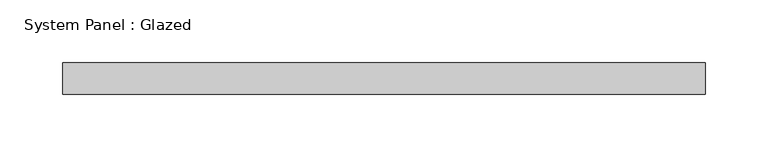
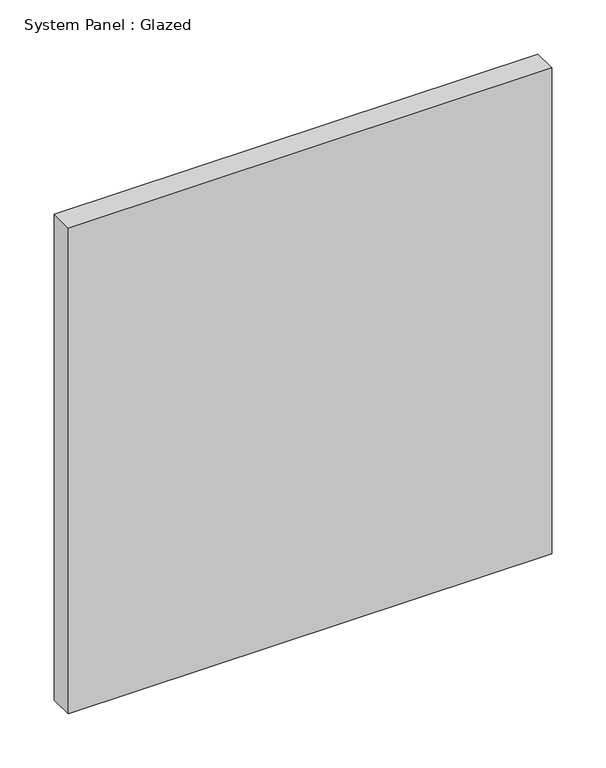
"""IFC4 building model written with IfcOpenShell, lengths in millimetres: plate geometry, System Panel : Glazed."""

from ifc_helpers import new_model, si_unit, origin, origin_with_axes, place, context, project, spatial, polyline, outline, extrude, source, transform, mapped, element, save


def system_panel_glazed_f9269b4e(model_context):
    return source(origin(), model_context, "Body", "SweptSolid", [
        extrude(outline(polyline([(257.175, 19.05), (-257.175, 19.05), (-257.175, 44.45), (257.175, 44.45), (257.175, 19.05)])), origin_with_axes(), (0.0, 0.0, 1.0), 546.1),
    ])


if __name__ == "__main__":
    model = new_model("IFC4")
    model_context = context("Model", 3, world=origin())
    ifc_project = project(units=[si_unit("LENGTHUNIT", "METRE", prefix="MILLI")], contexts=[model_context])
    site = spatial("IfcSite", under=ifc_project)
    building = spatial("IfcBuilding", under=site)
    placement = place(None, origin())
    system_panel_glazed_shape = system_panel_glazed_f9269b4e(model_context)
    element("IfcPlate", 1, ObjectType="System Panel : Glazed", at=placement, inside=building, context=model_context, shape_type="MappedRepresentation", body=[
        mapped(system_panel_glazed_shape, transform((0.0, 0.0, 0.0), x_axis=(1.0, 0.0, 0.0), y_axis=(0.0, 1.0, 0.0), z_axis=(0.0, 0.0, 1.0))),
    ])
    save(model, "model.ifc")
